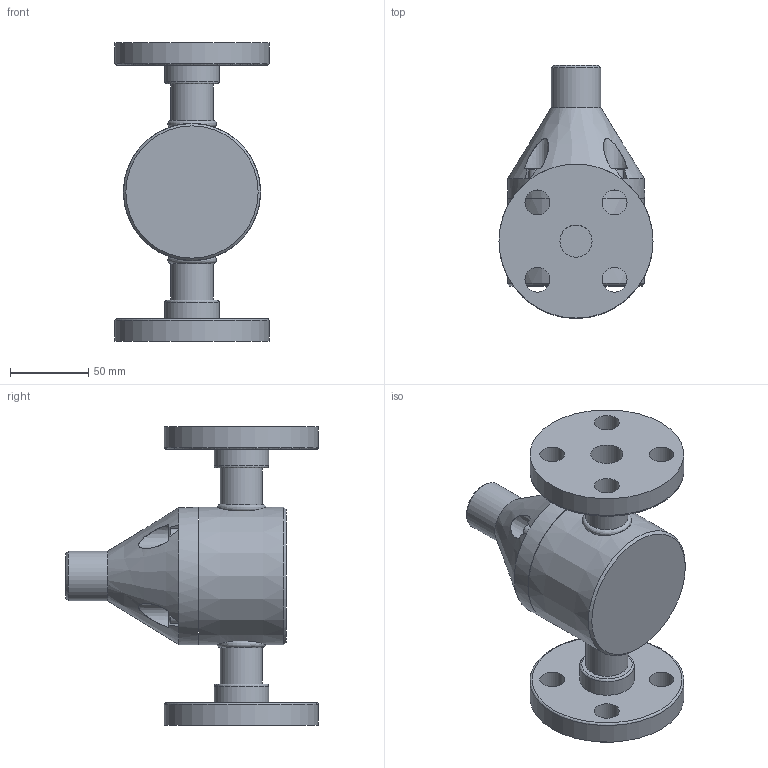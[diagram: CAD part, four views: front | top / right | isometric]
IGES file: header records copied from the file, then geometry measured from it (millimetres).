
Start section: SolidWorks IGES file using analytic representation for surfaces
Global section: file name: F:\Griffco-Valve\Griffco_current-projects\GV_web-files_2015\G Series Flanged\GBP0750-FLNG.IGS; native system: SolidWorks 2014; preprocessor: SolidWorks 2014; author: Dan; date: 160212.042544; units: inch
Bounding box: 98.42 x 161.61 x 190.5 mm (x, y, z)
Surface area: 96428.8 mm2 (no closed solid volume)
Topology: 0 solids, 0 shells, 123 faces, 526 edges, 485 vertices
Faces by surface type: bspline 77, revolution 46
